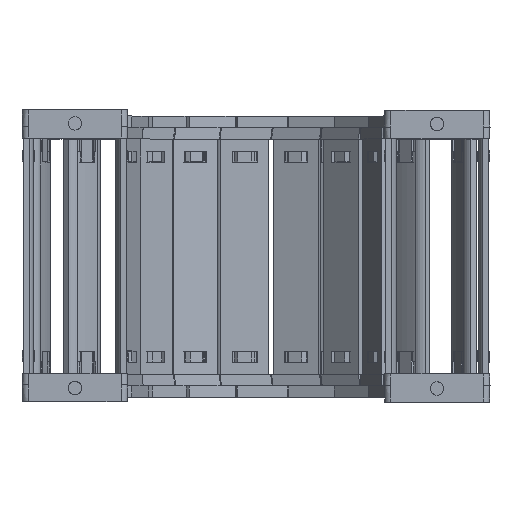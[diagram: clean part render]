
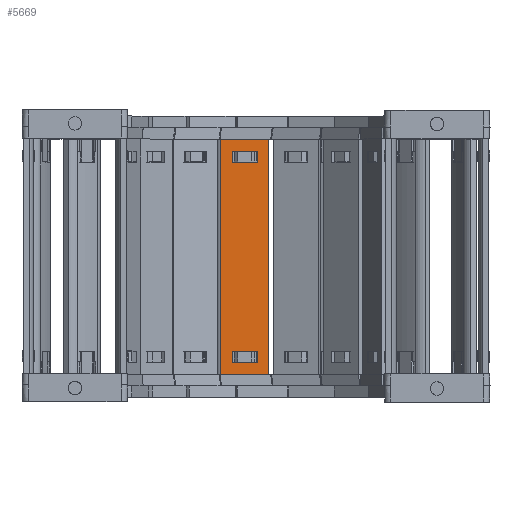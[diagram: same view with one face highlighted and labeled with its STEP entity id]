
A CAD part, top view. The second image highlights one B-rep face of the part: STEP entity #5669.
In plain terms, the highlighted planar face has unit normal (0.035, 0, 0.999) as drawn and (0, 1, 0) by its records, which use the part's own axes.
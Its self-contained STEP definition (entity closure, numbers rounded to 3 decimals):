
#5089=DIRECTION('',(0.,0.,1.));
#5090=VECTOR('',#5089,15.8);
#5091=CARTESIAN_POINT('',(62.24,1.5,-7.9));
#5092=LINE('',#5091,#5090);
#5093=DIRECTION('',(-1.,0.,0.));
#5094=VECTOR('',#5093,77.);
#5095=CARTESIAN_POINT('',(62.24,1.5,7.9));
#5096=LINE('',#5095,#5094);
#5097=DIRECTION('',(0.,0.,-1.));
#5098=VECTOR('',#5097,15.8);
#5099=CARTESIAN_POINT('',(-14.76,1.5,7.9));
#5100=LINE('',#5099,#5098);
#5101=DIRECTION('',(1.,0.,0.));
#5102=VECTOR('',#5101,3.648);
#5103=CARTESIAN_POINT('',(54.622,1.5,4.075));
#5104=LINE('',#5103,#5102);
#5105=DIRECTION('',(0.,0.,-1.));
#5106=VECTOR('',#5105,8.15);
#5107=CARTESIAN_POINT('',(58.27,1.5,4.075));
#5108=LINE('',#5107,#5106);
#5109=DIRECTION('',(-1.,0.,0.));
#5110=VECTOR('',#5109,3.648);
#5111=CARTESIAN_POINT('',(58.27,1.5,-4.075));
#5112=LINE('',#5111,#5110);
#5113=DIRECTION('',(0.,0.,-1.));
#5114=VECTOR('',#5113,8.15);
#5115=CARTESIAN_POINT('',(-7.142,1.5,4.075));
#5116=LINE('',#5115,#5114);
#5117=DIRECTION('',(-1.,0.,0.));
#5118=VECTOR('',#5117,3.648);
#5119=CARTESIAN_POINT('',(-7.142,1.5,-4.075));
#5120=LINE('',#5119,#5118);
#5121=DIRECTION('',(0.,0.,1.));
#5122=VECTOR('',#5121,8.15);
#5123=CARTESIAN_POINT('',(-10.79,1.5,-4.075));
#5124=LINE('',#5123,#5122);
#5125=DIRECTION('',(1.,0.,0.));
#5126=VECTOR('',#5125,3.648);
#5127=CARTESIAN_POINT('',(-10.79,1.5,4.075));
#5128=LINE('',#5127,#5126);
#5133=DIRECTION('',(-1.,0.,0.));
#5134=VECTOR('',#5133,77.);
#5135=CARTESIAN_POINT('',(62.24,1.5,-7.9));
#5136=LINE('',#5135,#5134);
#5254=DIRECTION('',(0.,0.,-1.));
#5255=VECTOR('',#5254,8.15);
#5256=CARTESIAN_POINT('',(54.622,1.5,4.075));
#5257=LINE('',#5256,#5255);
#5439=CARTESIAN_POINT('',(58.27,1.5,4.075));
#5440=VERTEX_POINT('',#5439);
#5441=CARTESIAN_POINT('',(54.622,1.5,4.075));
#5442=VERTEX_POINT('',#5441);
#5483=CARTESIAN_POINT('',(54.622,1.5,-4.075));
#5484=VERTEX_POINT('',#5483);
#5485=CARTESIAN_POINT('',(58.27,1.5,-4.075));
#5486=VERTEX_POINT('',#5485);
#5487=CARTESIAN_POINT('',(62.24,1.5,7.9));
#5489=VERTEX_POINT('',#5487);
#5491=CARTESIAN_POINT('',(62.24,1.5,-7.9));
#5492=VERTEX_POINT('',#5491);
#5515=CARTESIAN_POINT('',(-7.142,1.5,4.075));
#5516=CARTESIAN_POINT('',(-7.142,1.5,-4.075));
#5517=VERTEX_POINT('',#5515);
#5518=VERTEX_POINT('',#5516);
#5519=CARTESIAN_POINT('',(-10.79,1.5,-4.075));
#5520=VERTEX_POINT('',#5519);
#5521=CARTESIAN_POINT('',(-10.79,1.5,4.075));
#5522=VERTEX_POINT('',#5521);
#5523=CARTESIAN_POINT('',(-14.76,1.5,7.9));
#5524=VERTEX_POINT('',#5523);
#5527=CARTESIAN_POINT('',(-14.76,1.5,-7.9));
#5528=VERTEX_POINT('',#5527);
#5638=CARTESIAN_POINT('',(93.98,1.5,10.061));
#5639=DIRECTION('',(0.,-1.,0.));
#5640=DIRECTION('',(0.,0.,-1.));
#5641=AXIS2_PLACEMENT_3D('',#5638,#5639,#5640);
#5642=PLANE('',#5641);
#5643=ORIENTED_EDGE('',*,*,#5577,.T.);
#5644=ORIENTED_EDGE('',*,*,#5603,.T.);
#5645=ORIENTED_EDGE('',*,*,#5616,.T.);
#5647=ORIENTED_EDGE('',*,*,#5646,.F.);
#5648=EDGE_LOOP('',(#5643,#5644,#5645,#5647));
#5649=FACE_OUTER_BOUND('',#5648,.F.);
#5651=ORIENTED_EDGE('',*,*,#5650,.F.);
#5652=ORIENTED_EDGE('',*,*,#5540,.T.);
#5654=ORIENTED_EDGE('',*,*,#5653,.T.);
#5656=ORIENTED_EDGE('',*,*,#5655,.T.);
#5657=EDGE_LOOP('',(#5651,#5652,#5654,#5656));
#5658=FACE_BOUND('',#5657,.F.);
#5660=ORIENTED_EDGE('',*,*,#5659,.T.);
#5662=ORIENTED_EDGE('',*,*,#5661,.T.);
#5664=ORIENTED_EDGE('',*,*,#5663,.T.);
#5666=ORIENTED_EDGE('',*,*,#5665,.T.);
#5667=EDGE_LOOP('',(#5660,#5662,#5664,#5666));
#5668=FACE_BOUND('',#5667,.F.);
#5669=ADVANCED_FACE('',(#5649,#5658,#5668),#5642,.F.);
#5540=EDGE_CURVE('',#5442,#5440,#5104,.T.);
#5577=EDGE_CURVE('',#5492,#5489,#5092,.T.);
#5603=EDGE_CURVE('',#5489,#5524,#5096,.T.);
#5616=EDGE_CURVE('',#5524,#5528,#5100,.T.);
#5646=EDGE_CURVE('',#5492,#5528,#5136,.T.);
#5650=EDGE_CURVE('',#5442,#5484,#5257,.T.);
#5653=EDGE_CURVE('',#5440,#5486,#5108,.T.);
#5655=EDGE_CURVE('',#5486,#5484,#5112,.T.);
#5659=EDGE_CURVE('',#5517,#5518,#5116,.T.);
#5661=EDGE_CURVE('',#5518,#5520,#5120,.T.);
#5663=EDGE_CURVE('',#5520,#5522,#5124,.T.);
#5665=EDGE_CURVE('',#5522,#5517,#5128,.T.);
